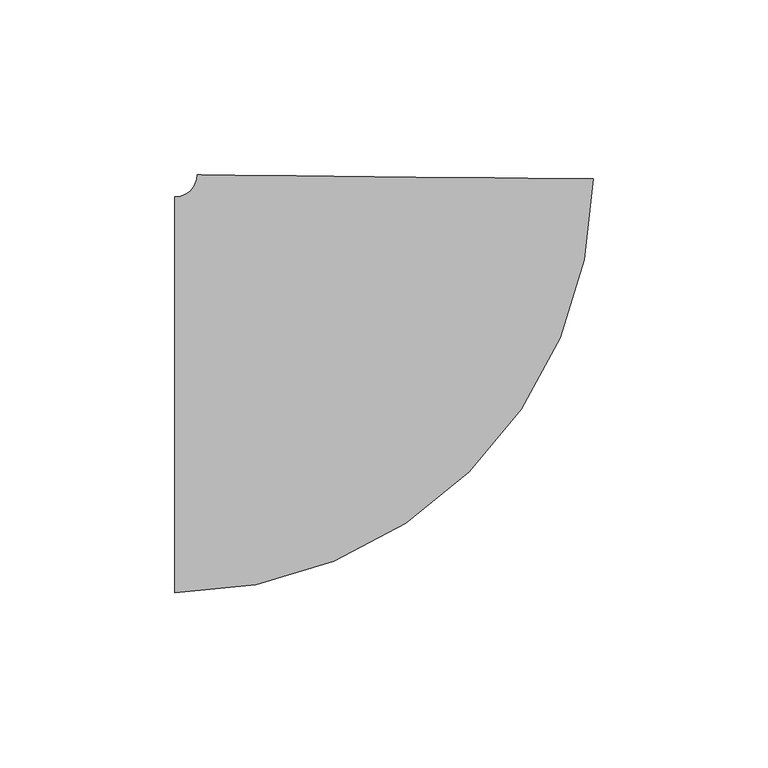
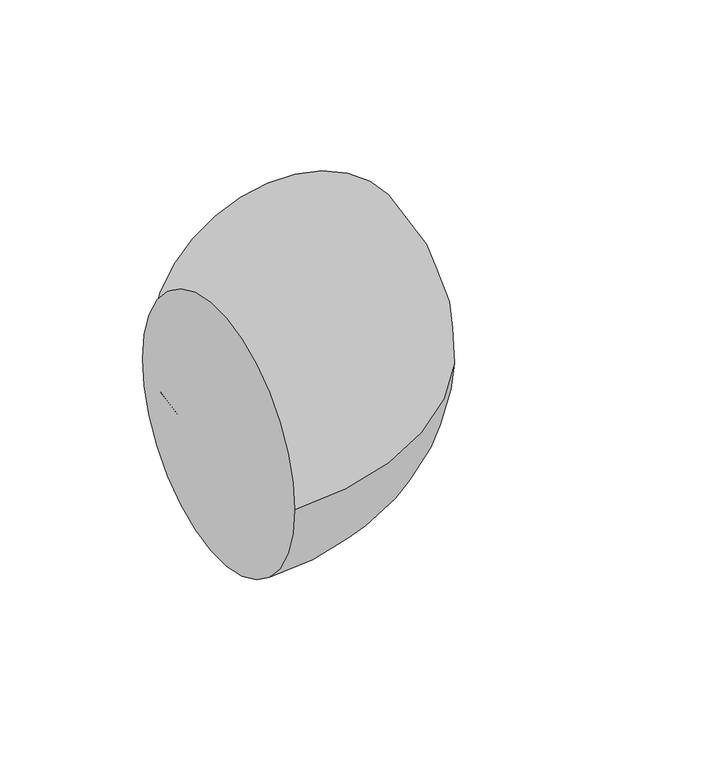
"""IFC4 building model written with IfcOpenShell, lengths in millimetres: pipe fitting geometry, M_Codo - Genérico : Estándar."""

from ifc_helpers import new_model, si_unit, point, frame, origin, place, context, project, spatial, circle_curve, ellipse_curve, trimmed, source, transform, mapped, element, save
from ifc_brep_helpers import plane_surface, revolved_surface, advanced_brep


def pipe_fitting_71d56335(model_context):
    return source(origin(), model_context, "Body", "AdvancedBrep", [
        advanced_brep(
        [(-62.3144429, -56.5875, 0.0), (-62.3144429, 56.5875, 0.0), (57.204642, 61.7483918, 0.0), (-55.9647572, 62.8743263, 0.0)],
        [
            (0, 1, circle_curve(frame((-62.3144429, 0.0, 0.0), z_axis=(-1.0, 0.0, 0.0), x_axis=(0.0, 1.0, 0.0)), 56.5875)),
            (1, 0, circle_curve(frame((-62.3144429, 0.0, 0.0), z_axis=(-1.0, 0.0, 0.0), x_axis=(0.0, 1.0, 0.0)), 56.5875)),
            (2, 3, circle_curve(frame((0.6199424, 62.311359, 0.0), z_axis=(0.009948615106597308, 0.9999505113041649, 0.0), x_axis=(-0.9999505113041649, 0.009948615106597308, 0.0)), 56.5875)),
            (3, 2, circle_curve(frame((0.6199424, 62.311359, 0.0), z_axis=(0.009948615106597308, 0.9999505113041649, 0.0), x_axis=(-0.9999505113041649, 0.009948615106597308, 0.0)), 56.5875)),
            (3, 1, circle_curve(frame((-62.3144429, 62.9375, 0.0), z_axis=(0.0, 0.0, -1.0), x_axis=(0.0, -1.0, 0.0)), 6.35)),
            (0, 2, circle_curve(frame((-62.3144429, 62.9375, 0.0), z_axis=(0.0, 0.0, 1.0), x_axis=(0.0, -1.0, 0.0)), 119.525)),
        ],
        [
            plane_surface(frame((-62.3144429, 0.0, 0.0), z_axis=(-1.0, 0.0, 0.0), x_axis=(0.0, 0.0, 1.0))),
            plane_surface(frame((0.6199424, 62.311359, 0.0), z_axis=(0.009948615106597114, 0.9999505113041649, 0.0), x_axis=(0.0, 0.0, 1.0))),
            revolved_surface(trimmed(ellipse_curve(frame((-62.3144429, 0.0, 0.0), z_axis=(-1.0, 0.0, 0.0), x_axis=(0.0, 1.0, 0.0)), 56.5875, 56.5875), [point((-62.3144429, -56.5875, 0.0))], [point((-62.3144429, 56.5875, 0.0))], True, "CARTESIAN"), (-62.3144429, 62.9375, 0.0), (0.0, 0.0, 1.0)),
            revolved_surface(trimmed(ellipse_curve(frame((-62.3144429, 0.0, 0.0), z_axis=(-1.0, 0.0, 0.0), x_axis=(0.0, 1.0, 0.0)), 56.5875, 56.5875), [point((-62.3144429, 56.5875, 0.0))], [point((-62.3144429, -56.5875, 0.0))], True, "CARTESIAN"), (-62.3144429, 62.9375, 0.0), (0.0, 0.0, 1.0)),
        ],
        [
            (0, [[1, 2]]),
            (1, [[3, 4]]),
            (2, [[5, -1, 6, -4]]),
            (3, [[-6, -2, -5, -3]]),
        ],
    ),
    ])


if __name__ == "__main__":
    model = new_model("IFC4")
    model_context = context("Model", 3, world=origin())
    ifc_project = project(units=[si_unit("LENGTHUNIT", "METRE", prefix="MILLI")], contexts=[model_context])
    site = spatial("IfcSite", under=ifc_project)
    building = spatial("IfcBuilding", under=site)
    placement = place(None, origin())
    pipe_fitting_shape = pipe_fitting_71d56335(model_context)
    element("IfcPipeFitting", 1, ObjectType="M_Codo - Genérico : Estándar", at=placement, inside=building, context=model_context, shape_type="MappedRepresentation", body=[
        mapped(pipe_fitting_shape, transform((0.0, 0.0, 0.0), x_axis=(1.0, 0.0, 0.0), y_axis=(0.0, 1.0, 0.0), z_axis=(0.0, 0.0, 1.0))),
    ])
    save(model, "model.ifc")
